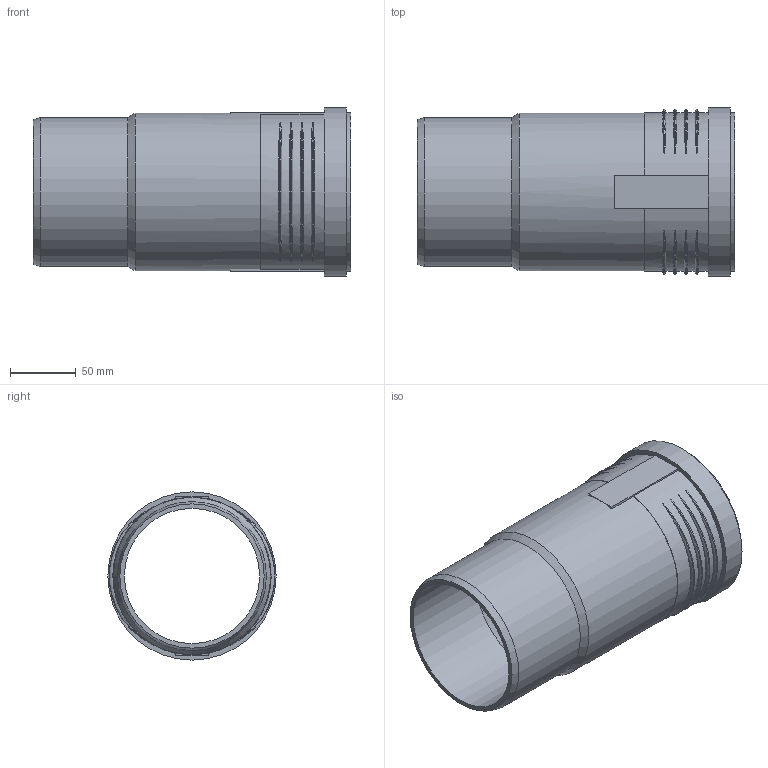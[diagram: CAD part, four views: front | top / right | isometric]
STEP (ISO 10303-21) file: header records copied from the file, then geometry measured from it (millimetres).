
FILE_DESCRIPTION(/* description */ (''),/* implementation_level */ '2;1');
FILE_NAME(/* name */ 'Z:\Geberit\Export\NewStep\390518.stp',/* time_stamp */ '2014-04-02T08:14:03+02:00',/* author */ ('ML'),/* organization */ (''),/* preprocessor_version */ 'ST-DEVELOPER v15.2',/* originating_system */ 'Autodesk Inventor 2014',/* authorisation */ '');
FILE_SCHEMA (('AUTOMOTIVE_DESIGN { 1 0 10303 214 3 1 1 }'));
Length unit declared in the file: millimetre
Products named in the file (1): 390518
Bounding box: 242 x 128.1 x 128.1 mm (x, y, z)
Volume: 349164.4 mm3; surface area: 186866.9 mm2
Topology: 1 solids, 1 shells, 53 faces, 128 edges, 89 vertices
Faces by surface type: torus 24, plane 16, cylinder 10, cone 3
Full cylindrical faces by diameter (mm): 103 x1, 113.3 x3, 119.9 x1, 120.5 x1, 121.5 x1, 128.1 x1
Entity records: 2240 total; most frequent: CARTESIAN_POINT 1010, ORIENTED_EDGE 232, DIRECTION 216, EDGE_CURVE 116, AXIS2_PLACEMENT_3D 94, VERTEX_POINT 88, EDGE_LOOP 78, STYLED_ITEM 54
